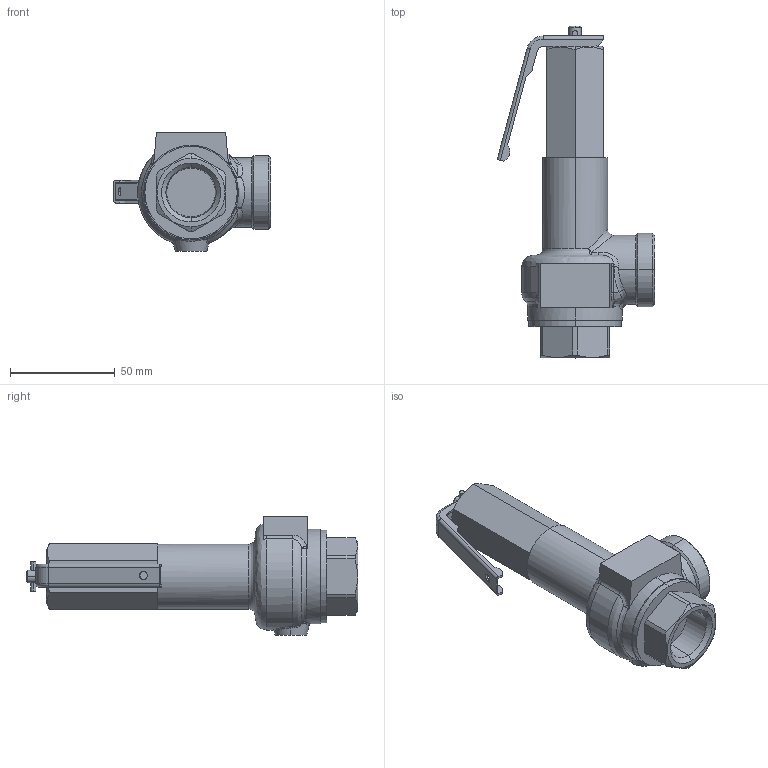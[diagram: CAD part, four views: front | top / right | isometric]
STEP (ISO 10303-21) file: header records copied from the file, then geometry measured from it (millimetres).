
FILE_DESCRIPTION( (''), '2;1');
FILE_NAME ('PC1276.14284.AL-140ML 20A_30944.stp','2025-12-05T09:02:56',(''),(''),'spGate 20.6.3 (****-****-****-****)','','');
FILE_SCHEMA (('AUTOMOTIVE_DESIGN'));
Length unit declared in the file: millimetre
Products named in the file (3): Assembly; AL-12 Lever; AL-140ML 20A(Non-Lever)
Assembly tree (2 placements, depth 2):
  Assembly
    AL-12 Lever
    AL-140ML 20A(Non-Lever)
Bounding box: 75.09 x 158.25 x 56.5 mm (x, y, z)
Volume: 154608.4 mm3; surface area: 27643.2 mm2
Topology: 2 solids, 2 shells, 170 faces, 410 edges, 252 vertices
Faces by surface type: plane 61, bspline 52, cylinder 51, sphere 6
Entity records: 10177 total; most frequent: CARTESIAN_POINT 3115, ORIENTED_EDGE 820, DIRECTION 724, COLOUR_RGB 582, PRESENTATION_STYLE_ASSIGNMENT 582, STYLED_ITEM 582, EDGE_CURVE 410, DRAUGHTING_PRE_DEFINED_CURVE_FONT 410
